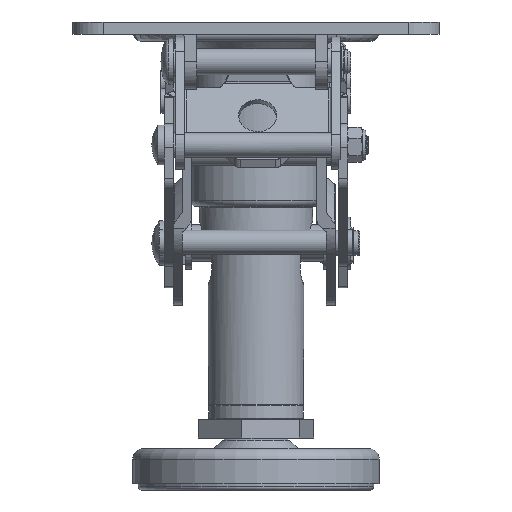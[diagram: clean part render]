
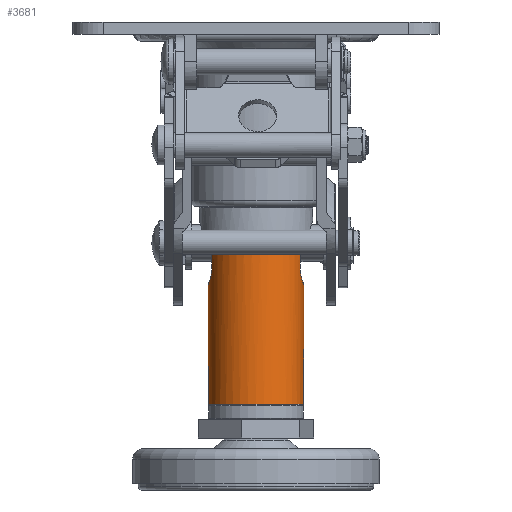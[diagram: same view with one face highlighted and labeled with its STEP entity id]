
A CAD part, left-side view. The second image highlights one B-rep face of the part: STEP entity #3681.
In plain terms, the highlighted cylindrical face has radius 15.6 mm (diameter 31.2 mm), a full revolution.
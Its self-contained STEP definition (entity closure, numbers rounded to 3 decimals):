
#171=LINE('',#23853,#942);
#172=LINE('',#23867,#943);
#173=LINE('',#23879,#944);
#174=LINE('',#23893,#945);
#942=VECTOR('',#14217,1.);
#943=VECTOR('',#14218,1.);
#944=VECTOR('',#14219,1.);
#945=VECTOR('',#14220,1.);
#1795=CYLINDRICAL_SURFACE('',#12593,15.6);
#2508=FACE_BOUND('',#5042,.T.);
#2509=FACE_BOUND('',#5043,.T.);
#2510=FACE_BOUND('',#5044,.T.);
#2511=FACE_BOUND('',#5045,.T.);
#3016=CIRCLE('',#12589,15.6);
#3017=CIRCLE('',#12591,15.6);
#3018=CIRCLE('',#12592,15.6);
#3681=ADVANCED_FACE('',(#2508,#2509,#2510,#2511),#1795,.T.);
#5042=EDGE_LOOP('',(#6382));
#5043=EDGE_LOOP('',(#6383,#6384,#6385,#6386));
#5044=EDGE_LOOP('',(#6387,#6388,#6389,#6390));
#5045=EDGE_LOOP('',(#6391,#6392,#6393,#6394));
#6382=ORIENTED_EDGE('',*,*,#10705,.T.);
#6383=ORIENTED_EDGE('',*,*,#10706,.T.);
#6384=ORIENTED_EDGE('',*,*,#10707,.T.);
#6385=ORIENTED_EDGE('',*,*,#10708,.T.);
#6386=ORIENTED_EDGE('',*,*,#10709,.T.);
#6387=ORIENTED_EDGE('',*,*,#10710,.T.);
#6388=ORIENTED_EDGE('',*,*,#10711,.T.);
#6389=ORIENTED_EDGE('',*,*,#10712,.T.);
#6390=ORIENTED_EDGE('',*,*,#10713,.T.);
#6391=ORIENTED_EDGE('',*,*,#10714,.T.);
#6392=ORIENTED_EDGE('',*,*,#10715,.T.);
#6393=ORIENTED_EDGE('',*,*,#10716,.T.);
#6394=ORIENTED_EDGE('',*,*,#10717,.T.);
#9484=VERTEX_POINT('',#23851);
#9485=VERTEX_POINT('',#23854);
#9486=VERTEX_POINT('',#23855);
#9487=VERTEX_POINT('',#23866);
#9488=VERTEX_POINT('',#23868);
#9489=VERTEX_POINT('',#23880);
#9490=VERTEX_POINT('',#23881);
#9491=VERTEX_POINT('',#23892);
#9492=VERTEX_POINT('',#23894);
#9493=VERTEX_POINT('',#23906);
#9494=VERTEX_POINT('',#23907);
#9495=VERTEX_POINT('',#23918);
#9496=VERTEX_POINT('',#23920);
#10705=EDGE_CURVE('',#9484,#9484,#3016,.T.);
#10706=EDGE_CURVE('',#9485,#9486,#171,.T.);
#10707=EDGE_CURVE('',#9486,#9487,#12234,.T.);
#10708=EDGE_CURVE('',#9487,#9488,#172,.T.);
#10709=EDGE_CURVE('',#9488,#9485,#12235,.T.);
#10710=EDGE_CURVE('',#9489,#9490,#173,.T.);
#10711=EDGE_CURVE('',#9490,#9491,#12236,.T.);
#10712=EDGE_CURVE('',#9491,#9492,#174,.T.);
#10713=EDGE_CURVE('',#9492,#9489,#12237,.T.);
#10714=EDGE_CURVE('',#9493,#9494,#3017,.T.);
#10715=EDGE_CURVE('',#9494,#9495,#12238,.T.);
#10716=EDGE_CURVE('',#9495,#9496,#3018,.T.);
#10717=EDGE_CURVE('',#9496,#9493,#12239,.T.);
#12234=B_SPLINE_CURVE_WITH_KNOTS('',3,(#23856,#23857,#23858,#23859,#23860,
#23861,#23862,#23863,#23864,#23865),.UNSPECIFIED.,.F.,.F.,(4,2,2,2,4),(0.,
0.25,0.5,0.75,1.),.UNSPECIFIED.);
#12235=B_SPLINE_CURVE_WITH_KNOTS('',3,(#23869,#23870,#23871,#23872,#23873,
#23874,#23875,#23876,#23877,#23878),.UNSPECIFIED.,.F.,.F.,(4,2,2,2,4),(0.,
0.25,0.5,0.75,1.),.UNSPECIFIED.);
#12236=B_SPLINE_CURVE_WITH_KNOTS('',3,(#23882,#23883,#23884,#23885,#23886,
#23887,#23888,#23889,#23890,#23891),.UNSPECIFIED.,.F.,.F.,(4,2,2,2,4),(0.,
0.25,0.5,0.75,1.),.UNSPECIFIED.);
#12237=B_SPLINE_CURVE_WITH_KNOTS('',3,(#23895,#23896,#23897,#23898,#23899,
#23900,#23901,#23902,#23903,#23904),.UNSPECIFIED.,.F.,.F.,(4,2,2,2,4),(0.,
0.25,0.5,0.75,1.),.UNSPECIFIED.);
#12238=B_SPLINE_CURVE_WITH_KNOTS('',3,(#23908,#23909,#23910,#23911,#23912,
#23913,#23914,#23915,#23916,#23917),.UNSPECIFIED.,.F.,.F.,(4,2,2,2,4),(0.,
0.25,0.5,0.75,1.),.UNSPECIFIED.);
#12239=B_SPLINE_CURVE_WITH_KNOTS('',3,(#23921,#23922,#23923,#23924,#23925,
#23926,#23927,#23928,#23929,#23930),.UNSPECIFIED.,.F.,.F.,(4,2,2,2,4),(0.,
0.25,0.5,0.75,1.),.UNSPECIFIED.);
#12589=AXIS2_PLACEMENT_3D('',#23850,#14213,#14214);
#12591=AXIS2_PLACEMENT_3D('',#23905,#14221,#14222);
#12592=AXIS2_PLACEMENT_3D('',#23919,#14223,#14224);
#12593=AXIS2_PLACEMENT_3D('',#23931,#14225,#14226);
#14213=DIRECTION('',(0.,0.,1.));
#14214=DIRECTION('',(-1.,0.,0.));
#14217=DIRECTION('',(0.,0.,-1.));
#14218=DIRECTION('',(0.,0.,1.));
#14219=DIRECTION('',(0.,0.,-1.));
#14220=DIRECTION('',(0.,0.,1.));
#14221=DIRECTION('',(0.,0.,-1.));
#14222=DIRECTION('',(-1.,0.,0.));
#14223=DIRECTION('',(0.,0.,-1.));
#14224=DIRECTION('',(-1.,0.,0.));
#14225=DIRECTION('',(0.,0.,1.));
#14226=DIRECTION('',(0.,1.,0.));
#23850=CARTESIAN_POINT('',(0.,0.,-125.));
#23851=CARTESIAN_POINT('',(-15.6,0.,-125.));
#23853=CARTESIAN_POINT('',(6.,-14.4,20.004));
#23854=CARTESIAN_POINT('',(6.,-14.4,-72.3));
#23855=CARTESIAN_POINT('',(6.,-14.4,-79.8));
#23856=CARTESIAN_POINT('',(6.,-14.4,-79.8));
#23857=CARTESIAN_POINT('',(6.,-14.4,-81.402));
#23858=CARTESIAN_POINT('',(5.339,-14.702,-82.946));
#23859=CARTESIAN_POINT('',(3.149,-15.321,-85.137));
#23860=CARTESIAN_POINT('',(1.59,-15.599,-85.798));
#23861=CARTESIAN_POINT('',(-1.576,-15.601,-85.802));
#23862=CARTESIAN_POINT('',(-3.142,-15.323,-85.143));
#23863=CARTESIAN_POINT('',(-5.342,-14.701,-82.944));
#23864=CARTESIAN_POINT('',(-6.,-14.4,-81.402));
#23865=CARTESIAN_POINT('',(-6.,-14.4,-79.8));
#23866=CARTESIAN_POINT('',(-6.,-14.4,-79.8));
#23867=CARTESIAN_POINT('',(-6.,-14.4,20.004));
#23868=CARTESIAN_POINT('',(-6.,-14.4,-72.3));
#23869=CARTESIAN_POINT('',(-6.,-14.4,-72.3));
#23870=CARTESIAN_POINT('',(-6.,-14.4,-70.698));
#23871=CARTESIAN_POINT('',(-5.339,-14.702,-69.154));
#23872=CARTESIAN_POINT('',(-3.149,-15.321,-66.963));
#23873=CARTESIAN_POINT('',(-1.59,-15.599,-66.302));
#23874=CARTESIAN_POINT('',(1.576,-15.601,-66.298));
#23875=CARTESIAN_POINT('',(3.142,-15.323,-66.957));
#23876=CARTESIAN_POINT('',(5.342,-14.701,-69.156));
#23877=CARTESIAN_POINT('',(6.,-14.4,-70.698));
#23878=CARTESIAN_POINT('',(6.,-14.4,-72.3));
#23879=CARTESIAN_POINT('',(-6.,14.4,20.004));
#23880=CARTESIAN_POINT('',(-6.,14.4,-72.3));
#23881=CARTESIAN_POINT('',(-6.,14.4,-79.8));
#23882=CARTESIAN_POINT('',(-6.,14.4,-79.8));
#23883=CARTESIAN_POINT('',(-6.,14.4,-81.402));
#23884=CARTESIAN_POINT('',(-5.339,14.702,-82.946));
#23885=CARTESIAN_POINT('',(-3.149,15.321,-85.137));
#23886=CARTESIAN_POINT('',(-1.59,15.599,-85.798));
#23887=CARTESIAN_POINT('',(1.576,15.601,-85.802));
#23888=CARTESIAN_POINT('',(3.142,15.323,-85.143));
#23889=CARTESIAN_POINT('',(5.342,14.701,-82.944));
#23890=CARTESIAN_POINT('',(6.,14.4,-81.402));
#23891=CARTESIAN_POINT('',(6.,14.4,-79.8));
#23892=CARTESIAN_POINT('',(6.,14.4,-79.8));
#23893=CARTESIAN_POINT('',(6.,14.4,20.004));
#23894=CARTESIAN_POINT('',(6.,14.4,-72.3));
#23895=CARTESIAN_POINT('',(6.,14.4,-72.3));
#23896=CARTESIAN_POINT('',(6.,14.4,-70.698));
#23897=CARTESIAN_POINT('',(5.339,14.702,-69.154));
#23898=CARTESIAN_POINT('',(3.149,15.321,-66.963));
#23899=CARTESIAN_POINT('',(1.59,15.599,-66.302));
#23900=CARTESIAN_POINT('',(-1.576,15.601,-66.298));
#23901=CARTESIAN_POINT('',(-3.142,15.323,-66.957));
#23902=CARTESIAN_POINT('',(-5.342,14.701,-69.156));
#23903=CARTESIAN_POINT('',(-6.,14.4,-70.698));
#23904=CARTESIAN_POINT('',(-6.,14.4,-72.3));
#23905=CARTESIAN_POINT('',(0.,0.,-71.3));
#23906=CARTESIAN_POINT('',(6.928,13.977,-71.3));
#23907=CARTESIAN_POINT('',(6.928,-13.977,-71.3));
#23908=CARTESIAN_POINT('',(6.928,-13.977,-71.3));
#23909=CARTESIAN_POINT('',(6.685,-14.098,-69.614));
#23910=CARTESIAN_POINT('',(5.837,-14.525,-68.1));
#23911=CARTESIAN_POINT('',(3.352,-15.291,-65.938));
#23912=CARTESIAN_POINT('',(1.693,-15.599,-65.302));
#23913=CARTESIAN_POINT('',(-1.68,-15.601,-65.298));
#23914=CARTESIAN_POINT('',(-3.351,-15.291,-65.939));
#23915=CARTESIAN_POINT('',(-5.829,-14.528,-68.091));
#23916=CARTESIAN_POINT('',(-6.685,-14.098,-69.614));
#23917=CARTESIAN_POINT('',(-6.928,-13.977,-71.3));
#23918=CARTESIAN_POINT('',(-6.928,-13.977,-71.3));
#23919=CARTESIAN_POINT('',(0.,0.,-71.3));
#23920=CARTESIAN_POINT('',(-6.928,13.977,-71.3));
#23921=CARTESIAN_POINT('',(-6.928,13.977,-71.3));
#23922=CARTESIAN_POINT('',(-6.685,14.098,-69.614));
#23923=CARTESIAN_POINT('',(-5.837,14.525,-68.1));
#23924=CARTESIAN_POINT('',(-3.352,15.291,-65.938));
#23925=CARTESIAN_POINT('',(-1.693,15.599,-65.302));
#23926=CARTESIAN_POINT('',(1.68,15.601,-65.298));
#23927=CARTESIAN_POINT('',(3.351,15.291,-65.939));
#23928=CARTESIAN_POINT('',(5.829,14.528,-68.091));
#23929=CARTESIAN_POINT('',(6.685,14.098,-69.614));
#23930=CARTESIAN_POINT('',(6.928,13.977,-71.3));
#23931=CARTESIAN_POINT('',(0.,0.,20.804));
